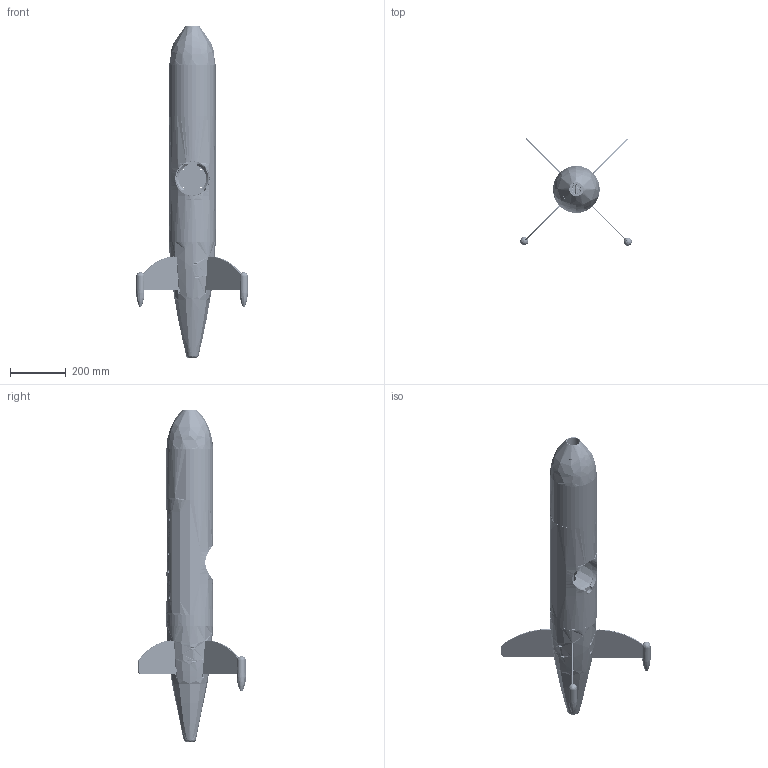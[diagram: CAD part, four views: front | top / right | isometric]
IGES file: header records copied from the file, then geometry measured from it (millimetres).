
Start section: SolidWorks IGES file using analytic representation for surfaces
Global section: file name: C:\Solidworks\customer facing\Towbody.IGS; native system: SolidWorks 2014; preprocessor: SolidWorks 2014; author: ernie.ferrier; date: 140911.144032; units: millimetre
Bounding box: 398.73 x 384.93 x 1186.33 mm (x, y, z)
Surface area: 2180824.3 mm2 (no closed solid volume)
Topology: 0 solids, 0 shells, 4663 faces, 65785 edges, 65716 vertices
Faces by surface type: revolution 2455, bspline 2208
